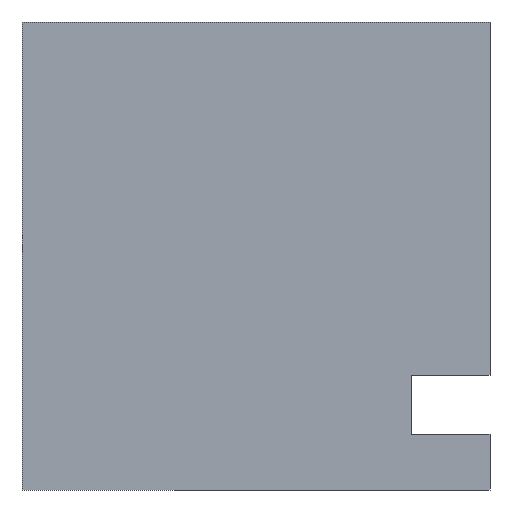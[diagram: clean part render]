
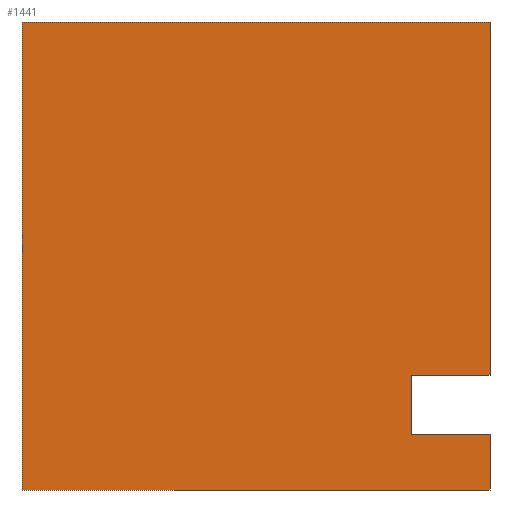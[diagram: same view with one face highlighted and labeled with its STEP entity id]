
A CAD part, front view. The second image highlights one B-rep face of the part: STEP entity #1441.
In plain terms, the highlighted planar face has unit normal (0, -1, 0).
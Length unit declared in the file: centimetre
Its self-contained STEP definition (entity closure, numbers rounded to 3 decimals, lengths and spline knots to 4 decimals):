
#19 = DIRECTION ( 'NONE',  ( 1., 0., 0. ) ) ;
#97 = ORIENTED_EDGE ( 'NONE', *, *, #1298, .T. ) ;
#110 = ORIENTED_EDGE ( 'NONE', *, *, #1200, .F. ) ;
#185 = LINE ( 'NONE', #763, #1077 ) ;
#295 = ORIENTED_EDGE ( 'NONE', *, *, #2178, .T. ) ;
#301 = LINE ( 'NONE', #669, #1814 ) ;
#333 = VECTOR ( 'NONE', #2361, 100. ) ;
#363 = LINE ( 'NONE', #1609, #333 ) ;
#369 = VERTEX_POINT ( 'NONE', #1387 ) ;
#382 = LINE ( 'NONE', #936, #1930 ) ;
#460 = VERTEX_POINT ( 'NONE', #1556 ) ;
#544 = DIRECTION ( 'NONE',  ( -1., 0., 0. ) ) ;
#571 = CARTESIAN_POINT ( 'NONE',  ( 1000., 0., 1000. ) ) ;
#578 = EDGE_CURVE ( 'NONE', #1812, #2096, #1057, .T. ) ;
#626 = DIRECTION ( 'NONE',  ( 0., 0., -1. ) ) ;
#634 = CARTESIAN_POINT ( 'NONE',  ( 832.7151, 0., 245.7149 ) ) ;
#655 = DIRECTION ( 'NONE',  ( 0., 1., 0. ) ) ;
#669 = CARTESIAN_POINT ( 'NONE',  ( 1000., 0., 1000. ) ) ;
#683 = DIRECTION ( 'NONE',  ( 0., 0., -1. ) ) ;
#698 = ORIENTED_EDGE ( 'NONE', *, *, #739, .F. ) ;
#739 = EDGE_CURVE ( 'NONE', #369, #1828, #363, .T. ) ;
#763 = CARTESIAN_POINT ( 'NONE',  ( 832.7151, 0., 118.9503 ) ) ;
#807 = PLANE ( 'NONE',  #2120 ) ;
#818 = CARTESIAN_POINT ( 'NONE',  ( 0., 0., 1000. ) ) ;
#819 = EDGE_CURVE ( 'NONE', #460, #1812, #185, .T. ) ;
#889 = DIRECTION ( 'NONE',  ( 1., 0., 0. ) ) ;
#904 = CARTESIAN_POINT ( 'NONE',  ( 1000., 0., 118.9503 ) ) ;
#907 = DIRECTION ( 'NONE',  ( 0., 0., -1. ) ) ;
#936 = CARTESIAN_POINT ( 'NONE',  ( 832.7151, 0., 245.7149 ) ) ;
#1031 = DIRECTION ( 'NONE',  ( 0., 0., 1. ) ) ;
#1036 = VERTEX_POINT ( 'NONE', #2049 ) ;
#1057 = LINE ( 'NONE', #1808, #1383 ) ;
#1071 = VECTOR ( 'NONE', #1488, 100. ) ;
#1077 = VECTOR ( 'NONE', #19, 100. ) ;
#1200 = EDGE_CURVE ( 'NONE', #2002, #460, #1297, .T. ) ;
#1273 = EDGE_CURVE ( 'NONE', #1828, #1036, #301, .T. ) ;
#1297 = LINE ( 'NONE', #2379, #1071 ) ;
#1298 = EDGE_CURVE ( 'NONE', #369, #2118, #2141, .T. ) ;
#1330 = VECTOR ( 'NONE', #889, 100. ) ;
#1383 = VECTOR ( 'NONE', #907, 100. ) ;
#1387 = CARTESIAN_POINT ( 'NONE',  ( 0., 0., 1000. ) ) ;
#1441 = ADVANCED_FACE ( 'NONE', ( #1742 ), #807, .F. ) ;
#1488 = DIRECTION ( 'NONE',  ( 0., 0., -1. ) ) ;
#1498 = VECTOR ( 'NONE', #626, 100. ) ;
#1556 = CARTESIAN_POINT ( 'NONE',  ( 832.7151, 0., 118.9503 ) ) ;
#1577 = EDGE_LOOP ( 'NONE', ( #110, #1988, #1976, #698, #97, #295, #1689, #2274 ) ) ;
#1609 = CARTESIAN_POINT ( 'NONE',  ( 0., 0., 1000. ) ) ;
#1652 = CARTESIAN_POINT ( 'NONE',  ( 0., 0., 0. ) ) ;
#1678 = CARTESIAN_POINT ( 'NONE',  ( 1000., 0., 0. ) ) ;
#1689 = ORIENTED_EDGE ( 'NONE', *, *, #578, .F. ) ;
#1742 = FACE_OUTER_BOUND ( 'NONE', #1577, .T. ) ;
#1808 = CARTESIAN_POINT ( 'NONE',  ( 1000., 0., 1000. ) ) ;
#1812 = VERTEX_POINT ( 'NONE', #904 ) ;
#1814 = VECTOR ( 'NONE', #683, 100. ) ;
#1828 = VERTEX_POINT ( 'NONE', #571 ) ;
#1930 = VECTOR ( 'NONE', #544, 100. ) ;
#1976 = ORIENTED_EDGE ( 'NONE', *, *, #1273, .F. ) ;
#1988 = ORIENTED_EDGE ( 'NONE', *, *, #2267, .F. ) ;
#2002 = VERTEX_POINT ( 'NONE', #634 ) ;
#2049 = CARTESIAN_POINT ( 'NONE',  ( 1000., 0., 245.7149 ) ) ;
#2053 = CARTESIAN_POINT ( 'NONE',  ( 0., 0., 0. ) ) ;
#2096 = VERTEX_POINT ( 'NONE', #1678 ) ;
#2118 = VERTEX_POINT ( 'NONE', #1652 ) ;
#2120 = AXIS2_PLACEMENT_3D ( 'NONE', #2337, #655, #1031 ) ;
#2141 = LINE ( 'NONE', #818, #1498 ) ;
#2178 = EDGE_CURVE ( 'NONE', #2118, #2096, #2418, .T. ) ;
#2267 = EDGE_CURVE ( 'NONE', #1036, #2002, #382, .T. ) ;
#2274 = ORIENTED_EDGE ( 'NONE', *, *, #819, .F. ) ;
#2337 = CARTESIAN_POINT ( 'NONE',  ( 0., 0., 1000. ) ) ;
#2361 = DIRECTION ( 'NONE',  ( 1., 0., 0. ) ) ;
#2379 = CARTESIAN_POINT ( 'NONE',  ( 832.7151, 0., 118.9503 ) ) ;
#2418 = LINE ( 'NONE', #2053, #1330 ) ;
